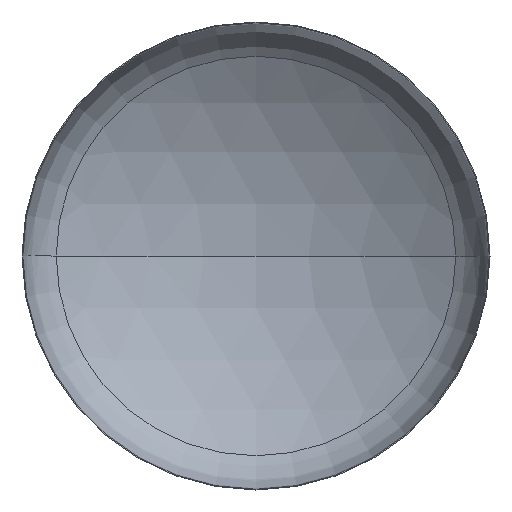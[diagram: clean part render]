
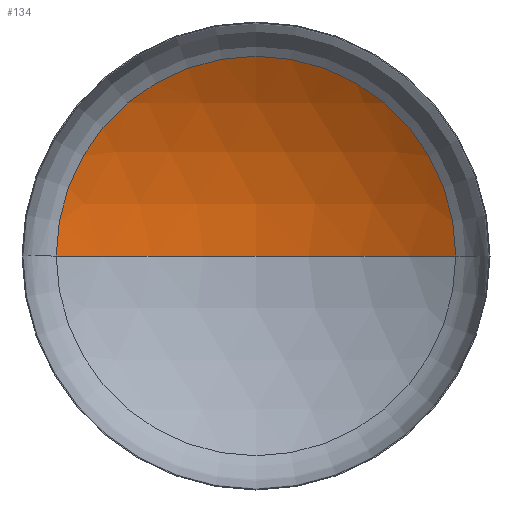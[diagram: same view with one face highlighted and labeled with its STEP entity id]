
A CAD part, front view. The second image highlights one B-rep face of the part: STEP entity #134.
In plain terms, the highlighted spherical face has radius 2400 mm.
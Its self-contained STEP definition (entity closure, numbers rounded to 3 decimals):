
#18 = EDGE_LOOP ( 'NONE', ( #37, #127, #124 ) ) ;
#19 = AXIS2_PLACEMENT_3D ( 'NONE', #143, #144, #375 ) ;
#25 = AXIS2_PLACEMENT_3D ( 'NONE', #292, #383, #194 ) ;
#26 = AXIS2_PLACEMENT_3D ( 'NONE', #224, #228, #356 ) ;
#37 = ORIENTED_EDGE ( 'NONE', *, *, #349, .F. ) ;
#50 = AXIS2_PLACEMENT_3D ( 'NONE', #386, #252, #318 ) ;
#114 = VERTEX_POINT ( 'NONE', #200 ) ;
#118 = VERTEX_POINT ( 'NONE', #302 ) ;
#124 = ORIENTED_EDGE ( 'NONE', *, *, #363, .T. ) ;
#127 = ORIENTED_EDGE ( 'NONE', *, *, #347, .T. ) ;
#134 = ADVANCED_FACE ( 'NONE', ( #146 ), #392, .F. ) ;
#135 = VERTEX_POINT ( 'NONE', #179 ) ;
#143 = CARTESIAN_POINT ( 'NONE',  ( 0., 409.067, 0. ) ) ;
#144 = DIRECTION ( 'NONE',  ( 0., -1., 0. ) ) ;
#146 = FACE_OUTER_BOUND ( 'NONE', #18, .T. ) ;
#170 = CIRCLE ( 'NONE', #26, 2400. ) ;
#179 = CARTESIAN_POINT ( 'NONE',  ( -1280.412, 409.067, 0. ) ) ;
#194 = DIRECTION ( 'NONE',  ( 1., 0., 0. ) ) ;
#200 = CARTESIAN_POINT ( 'NONE',  ( 1280.412, 409.067, 0. ) ) ;
#224 = CARTESIAN_POINT ( 'NONE',  ( 0., -1620.846, 0. ) ) ;
#228 = DIRECTION ( 'NONE',  ( 0., 0., -1. ) ) ;
#250 = CIRCLE ( 'NONE', #25, 2400. ) ;
#252 = DIRECTION ( 'NONE',  ( 0., 0., -1. ) ) ;
#292 = CARTESIAN_POINT ( 'NONE',  ( 0., -1620.846, 0. ) ) ;
#302 = CARTESIAN_POINT ( 'NONE',  ( 0., 779.154, 0. ) ) ;
#318 = DIRECTION ( 'NONE',  ( -1., 0., 0. ) ) ;
#347 = EDGE_CURVE ( 'NONE', #118, #114, #170, .T. ) ;
#349 = EDGE_CURVE ( 'NONE', #118, #135, #250, .T. ) ;
#356 = DIRECTION ( 'NONE',  ( -1., 0., 0. ) ) ;
#357 = CIRCLE ( 'NONE', #19, 1280.412 ) ;
#363 = EDGE_CURVE ( 'NONE', #114, #135, #357, .T. ) ;
#375 = DIRECTION ( 'NONE',  ( 1., 0., 0. ) ) ;
#383 = DIRECTION ( 'NONE',  ( 0., 0., 1. ) ) ;
#386 = CARTESIAN_POINT ( 'NONE',  ( 0., -1620.846, 0. ) ) ;
#392 = SPHERICAL_SURFACE ( 'NONE', #50, 2400. ) ;
